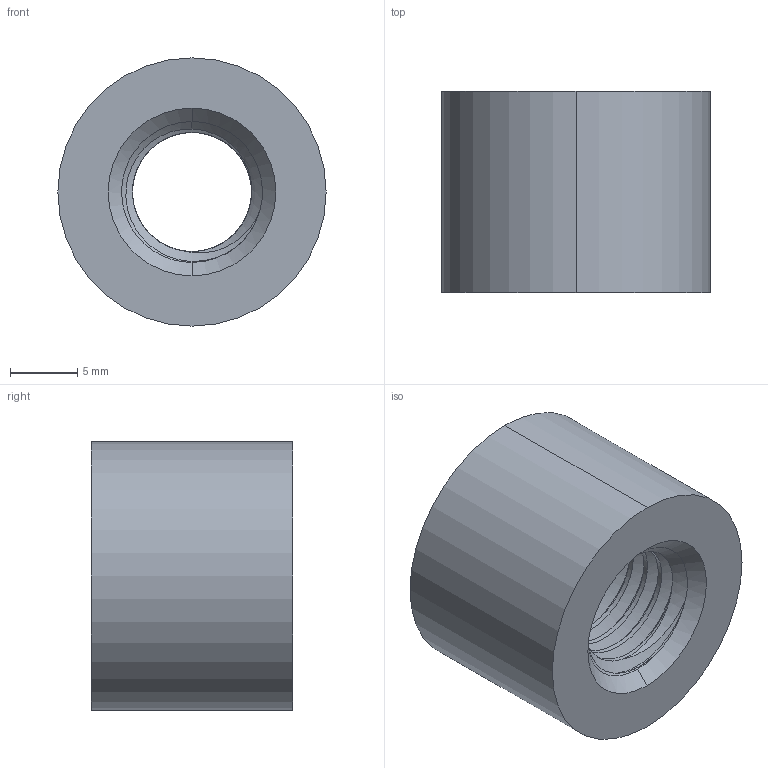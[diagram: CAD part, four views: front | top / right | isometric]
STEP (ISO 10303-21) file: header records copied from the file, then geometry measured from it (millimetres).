
FILE_DESCRIPTION (( 'STEP AP214' ), '1' );
FILE_NAME ('fan_v3.STEP', '2025-06-26T10:05:44', ( '' ), ( '' ), 'SwSTEP 2.0', 'SolidWorks 2023', '' );
FILE_SCHEMA (( 'AUTOMOTIVE_DESIGN' ));
Length unit declared in the file: millimetre
Products named in the file (1): fan_v3
Bounding box: 20 x 15 x 20 mm (x, y, z)
Volume: 3552.4 mm3; surface area: 2065.2 mm2
Topology: 1 solids, 1 shells, 38 faces, 100 edges, 64 vertices
Faces by surface type: cylinder 21, bspline 10, cone 4, plane 3
Entity records: 4612 total; most frequent: CARTESIAN_POINT 3835, ORIENTED_EDGE 200, DIRECTION 106, EDGE_CURVE 100, VERTEX_POINT 64, EDGE_LOOP 40, AXIS2_PLACEMENT_3D 40, ADVANCED_FACE 38
